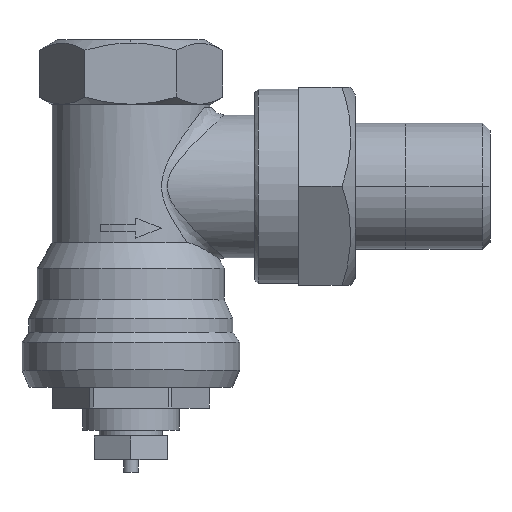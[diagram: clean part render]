
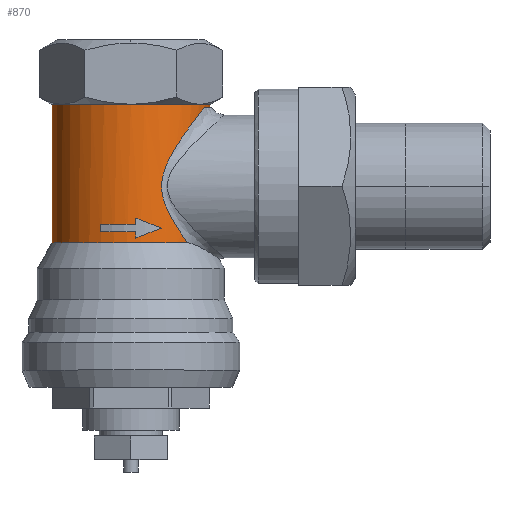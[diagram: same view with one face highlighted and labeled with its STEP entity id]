
A CAD part, top view. The second image highlights one B-rep face of the part: STEP entity #870.
In plain terms, the highlighted cylindrical face has radius 10.75 mm (diameter 21.5 mm), a partial arc.
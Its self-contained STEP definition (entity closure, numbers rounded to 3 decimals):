
#645=CARTESIAN_POINT('',(-10.75,-18.455,0.));
#646=VERTEX_POINT('',#645);
#748=CARTESIAN_POINT('',(-10.75,0.443,0.));
#749=VERTEX_POINT('',#748);
#750=CARTESIAN_POINT('',(-10.75,0.443,0.));
#751=DIRECTION('',(0.0,-1.0,0.0));
#752=VECTOR('',#751,18.898);
#753=LINE('',#750,#752);
#754=EDGE_CURVE('',#749,#646,#753,.T.);
#756=CARTESIAN_POINT('',(10.75,0.443,0.));
#757=VERTEX_POINT('',#756);
#765=CARTESIAN_POINT('',(10.75,0.,0.));
#766=VERTEX_POINT('',#765);
#767=CARTESIAN_POINT('',(10.75,0.,0.));
#768=DIRECTION('',(0.,1.0,0.));
#769=VECTOR('',#768,0.443);
#770=LINE('',#767,#769);
#771=EDGE_CURVE('',#766,#757,#770,.T.);
#811=CARTESIAN_POINT('',(0.,2.207,0.));
#812=DIRECTION('',(0.,-1.0,0.));
#813=DIRECTION('',(-1.0,0.0,0.0));
#814=AXIS2_PLACEMENT_3D('',#811,#812,#813);
#815=CYLINDRICAL_SURFACE('',#814,10.75);
#816=ORIENTED_EDGE('',*,*,#754,.T.);
#817=CARTESIAN_POINT('',(7.723,-18.455,7.477));
#818=VERTEX_POINT('',#817);
#819=CARTESIAN_POINT('',(0.,-18.455,0.));
#820=DIRECTION('',(0.0,1.0,0.0));
#821=DIRECTION('',(-1.0,0.0,0.0));
#822=AXIS2_PLACEMENT_3D('',#819,#820,#821);
#823=CIRCLE('',#822,10.75);
#824=EDGE_CURVE('',#646,#818,#823,.T.);
#825=ORIENTED_EDGE('',*,*,#824,.T.);
#826=CARTESIAN_POINT('',(9.99,0.,3.969));
#827=VERTEX_POINT('',#826);
#828=CARTESIAN_POINT('',(9.99,0.,3.969));
#829=CARTESIAN_POINT('',(9.566,-0.555,5.038));
#830=CARTESIAN_POINT('',(8.994,-1.308,5.973));
#831=CARTESIAN_POINT('',(8.364,-2.171,6.754));
#832=CARTESIAN_POINT('',(7.76,-2.998,7.501));
#833=CARTESIAN_POINT('',(7.093,-3.935,8.119));
#834=CARTESIAN_POINT('',(6.437,-4.959,8.61));
#835=CARTESIAN_POINT('',(5.781,-5.984,9.1));
#836=CARTESIAN_POINT('',(5.111,-7.099,9.471));
#837=CARTESIAN_POINT('',(4.648,-8.366,9.693));
#838=CARTESIAN_POINT('',(4.362,-9.147,9.83));
#839=CARTESIAN_POINT('',(4.17,-10.016,9.908));
#840=CARTESIAN_POINT('',(4.189,-10.885,9.9));
#841=CARTESIAN_POINT('',(4.207,-11.755,9.892));
#842=CARTESIAN_POINT('',(4.43,-12.604,9.801));
#843=CARTESIAN_POINT('',(4.734,-13.377,9.652));
#844=CARTESIAN_POINT('',(5.108,-14.328,9.468));
#845=CARTESIAN_POINT('',(5.59,-15.186,9.202));
#846=CARTESIAN_POINT('',(6.083,-15.992,8.863));
#847=CARTESIAN_POINT('',(6.627,-16.88,8.49));
#848=CARTESIAN_POINT('',(7.191,-17.704,8.027));
#849=CARTESIAN_POINT('',(7.723,-18.455,7.477));
#850=B_SPLINE_CURVE_WITH_KNOTS('',3,(#828,#829,#830,#831,#832,#833,#834,#835,#836,#837,#838,#839,#840,#841,#842,#843,#844,#845,#846,#847,#848,#849),.UNSPECIFIED.,.F.,.U.,(4,3,3,3,3,3,3,4),(94.654,99.06,103.278,107.495,110.096,112.698,115.901,119.429),.UNSPECIFIED.);
#851=EDGE_CURVE('',#827,#818,#850,.T.);
#852=ORIENTED_EDGE('',*,*,#851,.F.);
#853=CARTESIAN_POINT('',(0.,0.,0.));
#854=DIRECTION('',(0.0,-1.0,0.0));
#855=DIRECTION('',(-1.0,0.0,0.0));
#856=AXIS2_PLACEMENT_3D('',#853,#854,#855);
#857=CIRCLE('',#856,10.75);
#858=EDGE_CURVE('',#766,#827,#857,.T.);
#859=ORIENTED_EDGE('',*,*,#858,.F.);
#860=ORIENTED_EDGE('',*,*,#771,.T.);
#861=CARTESIAN_POINT('',(0.,0.443,0.));
#862=DIRECTION('',(0.0,1.0,0.0));
#863=DIRECTION('',(-1.0,0.0,0.0));
#864=AXIS2_PLACEMENT_3D('',#861,#862,#863);
#865=CIRCLE('',#864,10.75);
#866=EDGE_CURVE('',#749,#757,#865,.T.);
#867=ORIENTED_EDGE('',*,*,#866,.F.);
#868=EDGE_LOOP('',(#816,#825,#852,#859,#860,#867));
#869=FACE_OUTER_BOUND('',#868,.T.);
#870=ADVANCED_FACE('',(#869),#815,.T.);
